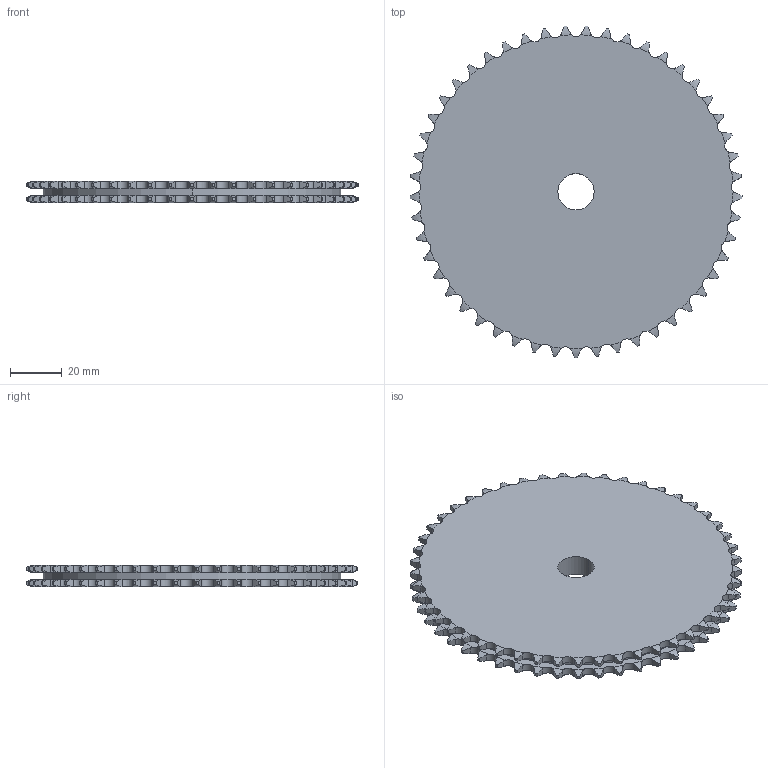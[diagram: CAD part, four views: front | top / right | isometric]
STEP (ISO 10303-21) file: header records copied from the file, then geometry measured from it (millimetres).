
FILE_DESCRIPTION((''),'2;1');
FILE_NAME('500-082-0049_PRT','2021-02-12T',('Brieden'),('Brieden'),'PRO/ENGINEER BY PARAMETRIC TECHNOLOGY CORPORATION, 2010160','PRO/ENGINEER BY PARAMETRIC TECHNOLOGY CORPORATION, 2010160','');
FILE_SCHEMA(('AUTOMOTIVE_DESIGN { 1 0 10303 214 1 1 1 1 }'));
Length unit declared in the file: millimetre
Products named in the file (1): 500-082-0049_PRT
Bounding box: 128.08 x 128.02 x 8.3 mm (x, y, z)
Volume: 92947.8 mm3; surface area: 30778.5 mm2
Topology: 1 solids, 1 shells, 596 faces, 1776 edges, 1184 vertices
Faces by surface type: cylinder 396, torus 196, plane 4
Entity records: 27794 total; most frequent: CARTESIAN_POINT 7343, ORIENTED_EDGE 3552, DIRECTION 2780, PRESENTATION_STYLE_ASSIGNMENT 1777, STYLED_ITEM 1777, CURVE_STYLE 1776, EDGE_CURVE 1776, AXIS2_PLACEMENT_3D 1192
